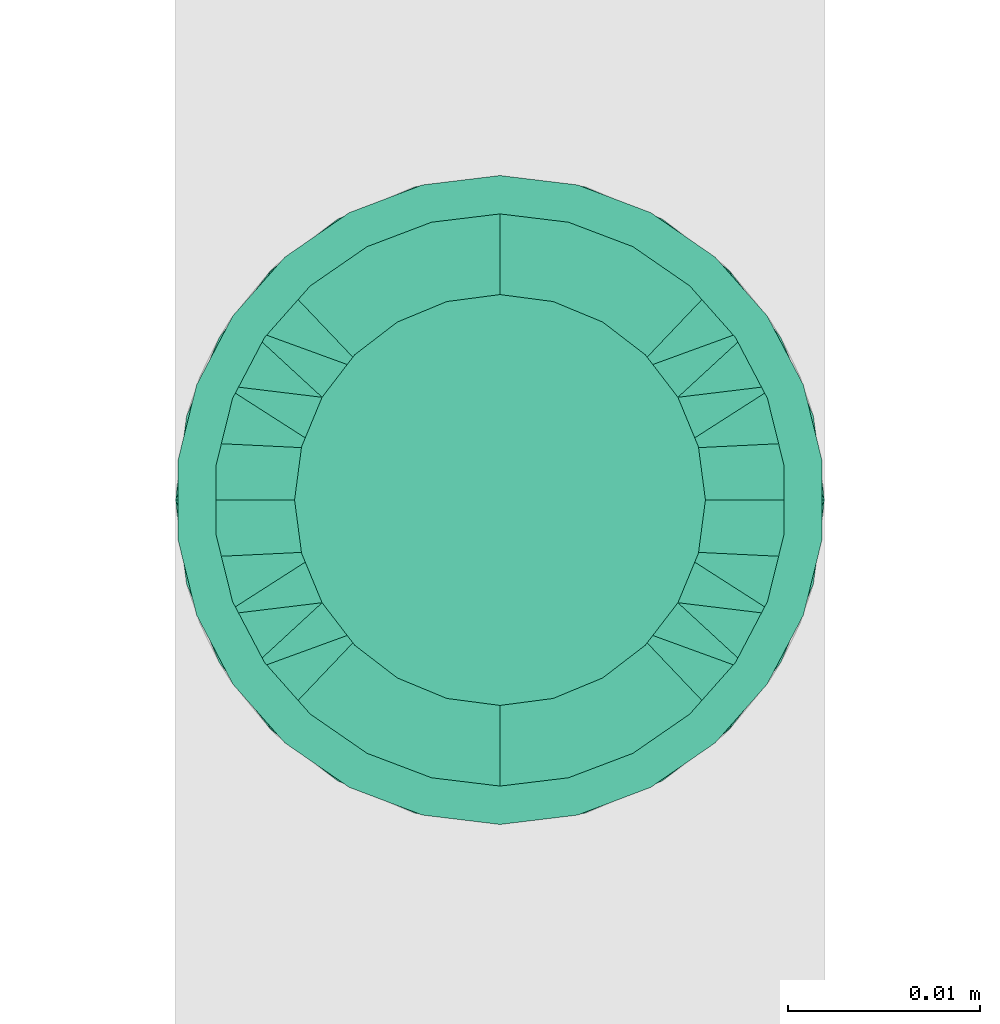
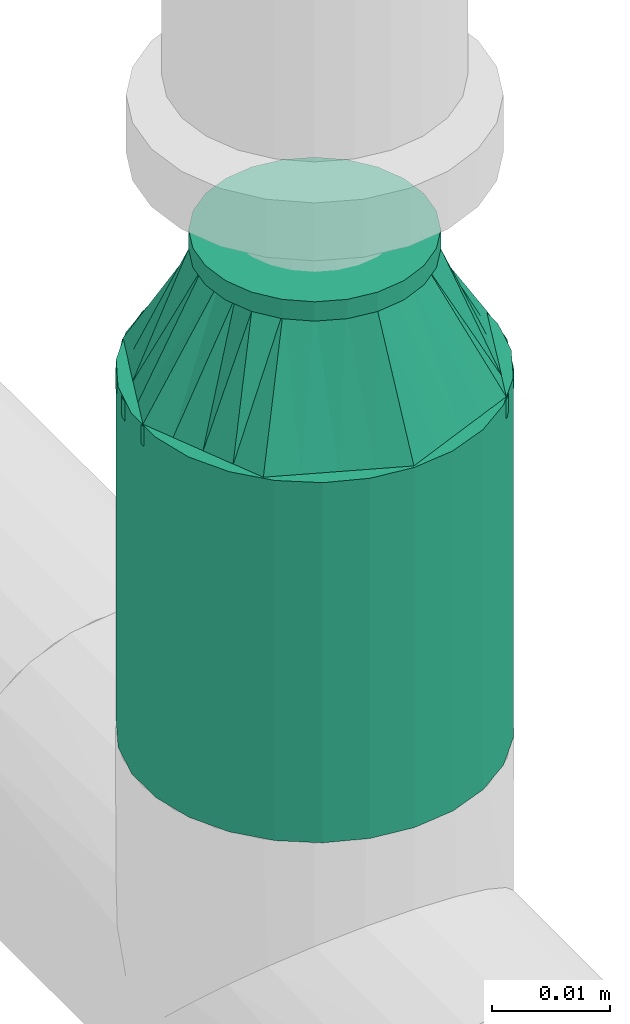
# One storey, part 26 of 31: 1 flow fitting, 1 flow segment.
"""IFC2X3 building model written with IfcOpenShell, lengths in millimetres."""

import ifcopenshell
import ifcopenshell.guid

model = None  # the IFC model being written
_history = None  # IfcOwnerHistory: only IFC2X3 demands one
_inside = {}  # id of a spatial element -> (the spatial element, [elements in it])
_under = {}  # id of a project, library or spatial element -> (it, [spatial elements below it])
_declared = {}  # id of a project -> (the project, [libraries it declares])
_typed = {}  # id of a type object -> (the type object, [elements of that type])
_made_of = {}  # id of a material, layer set ... -> (it, [elements and type objects made of it])


def new_model(schema):
    """Start an empty IFC model of exactly this schema.

    Asked for "IFC4X3", IfcOpenShell would pick the latest addendum, in which some entities
    have other attributes; the version numbers below select the first issue.
    IFC2X3 requires an IfcOwnerHistory on every rooted entity: one is made here for all.
    """
    global model, _history
    if schema == "IFC4X3":
        model = ifcopenshell.file(schema_version=(4, 3, 0, 0))
    else:
        model = ifcopenshell.file(schema=schema)
    _inside.clear()
    _under.clear()
    _declared.clear()
    _typed.clear()
    _made_of.clear()
    _history = None
    if model.schema == "IFC2X3":
        org = make("IfcOrganization", Name="unknown")
        user = make(
            "IfcPersonAndOrganization",
            ThePerson=make("IfcPerson", FamilyName="unknown"),
            TheOrganization=org,
        )
        app = make(
            "IfcApplication",
            ApplicationDeveloper=org,
            Version="unknown",
            ApplicationFullName="unknown",
            ApplicationIdentifier="unknown",
        )
        _history = make(
            "IfcOwnerHistory",
            OwningUser=user,
            OwningApplication=app,
            ChangeAction="ADDED",
            CreationDate=0,
        )
    return model


def make(cls, **values):
    """One entity of the class cls with the attributes given. An attribute that is None is left unset."""
    return model.create_entity(
        cls, **{name: value for name, value in values.items() if value is not None}
    )


def entity(cls, *values):
    """Any entity or typed value of the class cls, its attributes in the order of the schema. None: left unset."""
    e = model.create_entity(cls)
    for i, value in enumerate(values):
        if value is not None:
            e[i] = value
    return e


def rooted(cls, **values):
    """An entity with a GlobalId (a new one), such as an element, a storey or a relation."""
    return make(cls, GlobalId=ifcopenshell.guid.new(), OwnerHistory=_history, **values)


def si_unit(unit_type, name, prefix=None):
    """IfcSIUnit, for example si_unit("LENGTHUNIT", "METRE", prefix="MILLI")."""
    return make("IfcSIUnit", UnitType=unit_type, Prefix=prefix, Name=name)


def converted_unit(unit_type, name, factor, base, dimensions=None, offset=None):
    """IfcConversionBasedUnit, such as the inch: factor (a typed value) times the base unit."""
    return make(
        "IfcConversionBasedUnit"
        if offset is None
        else "IfcConversionBasedUnitWithOffset",
        ConversionOffset=offset,
        Dimensions=None
        if dimensions is None
        else entity("IfcDimensionalExponents", *dimensions),
        UnitType=unit_type,
        Name=name,
        ConversionFactor=make(
            "IfcMeasureWithUnit", ValueComponent=factor, UnitComponent=base
        ),
    )


def derived_unit(unit_type, elements):
    """IfcDerivedUnit: a product of units, each with its exponent."""
    return make(
        "IfcDerivedUnit",
        Elements=[
            make("IfcDerivedUnitElement", Unit=unit, Exponent=power)
            for unit, power in elements
        ],
        UnitType=unit_type,
    )


def assignment(units):
    """IfcUnitAssignment: the units of a project."""
    return None if units is None else make("IfcUnitAssignment", Units=units)


def point(xyz):
    """IfcCartesianPoint."""
    return None if xyz is None else make("IfcCartesianPoint", Coordinates=xyz)


def direction(xyz):
    """IfcDirection."""
    return None if xyz is None else make("IfcDirection", DirectionRatios=xyz)


def frame(location, z_axis=None, x_axis=None):
    """IfcAxis2Placement3D, a coordinate frame: its origin and axes. An axis left out is left unset."""
    return make(
        "IfcAxis2Placement3D",
        Location=point(location),
        Axis=direction(z_axis),
        RefDirection=direction(x_axis),
    )


def frame_2d(location, x_axis=None):
    """IfcAxis2Placement2D, a coordinate frame in the plane: its origin and x axis."""
    return make(
        "IfcAxis2Placement2D", Location=point(location), RefDirection=direction(x_axis)
    )


def origin_with_axes():
    """The frame at (0, 0, 0) with the z axis (0, 0, 1) and the x axis (1, 0, 0) written out."""
    return frame((0.0, 0.0, 0.0), z_axis=(0.0, 0.0, 1.0), x_axis=(1.0, 0.0, 0.0))


def origin_2d_with_axis():
    """The frame at (0, 0) in the plane with the x axis (1, 0) written out."""
    return frame_2d((0.0, 0.0), x_axis=(1.0, 0.0))


def place(relative_to, where):
    """IfcLocalPlacement: puts the frame where relative to a parent placement (None: the world)."""
    return make(
        "IfcLocalPlacement", PlacementRelTo=relative_to, RelativePlacement=where
    )


def context(
    kind, dimensions, precision=None, world=None, true_north=None, identifier=None
):
    """IfcGeometricRepresentationContext, for example the 3D "Model" context."""
    return make(
        "IfcGeometricRepresentationContext",
        ContextIdentifier=identifier,
        ContextType=kind,
        CoordinateSpaceDimension=dimensions,
        Precision=precision,
        WorldCoordinateSystem=world,
        TrueNorth=true_north,
    )


def subcontext(parent, identifier, kind, view, scale=None):
    """IfcGeometricRepresentationSubContext, for example "Body" below "Model"."""
    return make(
        "IfcGeometricRepresentationSubContext",
        ContextIdentifier=identifier,
        ContextType=kind,
        ParentContext=parent,
        TargetScale=scale,
        TargetView=view,
    )


def project(units=None, contexts=None):
    """IfcProject with its units and contexts."""
    return rooted(
        "IfcProject",
        Name="project",
        RepresentationContexts=contexts,
        UnitsInContext=assignment(units),
    )


def spatial(cls, under=None, at=None, **own):
    """A site, building, storey or space (cls), placed at a placement, below another one or the project."""
    s = rooted(cls, ObjectPlacement=at, **own)
    if under is not None:
        _under.setdefault(under.id(), (under, []))[1].append(s)
    return s


def profile(cls, at=None, kind="AREA", **sizes):
    """A parametric profile (cls). Its sizes go by their IFC names, for example OverallWidth=200.0."""
    return make(cls, ProfileType=kind, Position=at, **sizes)


def hollow_circle(**sizes):
    """IfcCircleHollowProfileDef."""
    return profile("IfcCircleHollowProfileDef", **sizes)


def extrude(swept, where, along, depth):
    """IfcExtrudedAreaSolid: the profile swept, set in the frame where, extruded along a direction by depth."""
    return make(
        "IfcExtrudedAreaSolid",
        SweptArea=swept,
        Position=where,
        ExtrudedDirection=direction(along),
        Depth=depth,
    )


def faces_of(points, faces, orient=None, outer=None):
    """IfcFace entities. A face is a list of loops; a loop is a list of indices into points, from 0.

    orient and outer hold one flag for each loop. By default every Orientation is true, the
    first loop of a face is its IfcFaceOuterBound and the others are IfcFaceBound.
    """
    made = []
    for i, loops in enumerate(faces):
        bounds = []
        for j, loop in enumerate(loops):
            is_outer = j == 0 if outer is None else outer[i][j]
            bounds.append(
                make(
                    "IfcFaceOuterBound" if is_outer else "IfcFaceBound",
                    Bound=make("IfcPolyLoop", Polygon=[points[k] for k in loop]),
                    Orientation=True if orient is None else orient[i][j],
                )
            )
        made.append(make("IfcFace", Bounds=bounds))
    return made


def open_shell(faces, orient=None, outer=None):
    """The faces of one IfcOpenShell. surface_model builds it on its shared points."""
    return ("IfcOpenShell", faces, orient, outer)


def surface_model(cls, points, shells):
    """IfcFaceBasedSurfaceModel or IfcShellBasedSurfaceModel (cls): surfaces that need not close."""
    shared = [point(p) for p in points]
    made = [make(c, CfsFaces=faces_of(shared, fs, o, b)) for c, fs, o, b in shells]
    if cls == "IfcFaceBasedSurfaceModel":
        return make(cls, FbsmFaces=made)
    return make(cls, SbsmBoundary=made)


def shape(context_of_items, identifier, shape_type, items):
    """IfcShapeRepresentation: the items that make up one representation, for example the "Body"."""
    return make(
        "IfcShapeRepresentation",
        ContextOfItems=context_of_items,
        RepresentationIdentifier=identifier,
        RepresentationType=shape_type,
        Items=items,
    )


def source(mapping_origin, context_of_items, identifier, shape_type, items):
    """IfcRepresentationMap: a shape defined once, which mapped items show again and again."""
    return make(
        "IfcRepresentationMap",
        MappingOrigin=mapping_origin,
        MappedRepresentation=shape(context_of_items, identifier, shape_type, items),
    )


def transform(
    local_origin,
    x_axis=None,
    y_axis=None,
    z_axis=None,
    scale=None,
    scale2=None,
    scale3=None,
    uniform=True,
):
    """IfcCartesianTransformationOperator3D, or its non-uniform kind. x_axis, y_axis, z_axis: its Axis1, 2, 3."""
    if uniform:
        return make(
            "IfcCartesianTransformationOperator3D",
            Axis1=direction(x_axis),
            Axis2=direction(y_axis),
            LocalOrigin=point(local_origin),
            Scale=scale,
            Axis3=direction(z_axis),
        )
    return make(
        "IfcCartesianTransformationOperator3DnonUniform",
        Axis1=direction(x_axis),
        Axis2=direction(y_axis),
        LocalOrigin=point(local_origin),
        Scale=scale,
        Axis3=direction(z_axis),
        Scale2=scale2,
        Scale3=scale3,
    )


def mapped(mapping_source, mapping_target):
    """IfcMappedItem: shows the shape of a source again, moved by a transform."""
    return make(
        "IfcMappedItem", MappingSource=mapping_source, MappingTarget=mapping_target
    )


def made_of(thing, what):
    """Note that an element or type object is made of a material, layer set ...; save() writes the relation."""
    if what is not None:
        _made_of.setdefault(what.id(), (what, []))[1].append(thing)
    return thing


def type_object(cls, material=None, **own):
    """A type object (cls), such as IfcWallType, which elements share."""
    return made_of(rooted(cls, **own), material)


def element(
    cls,
    number,
    at=None,
    inside=None,
    cuts=None,
    type_object=None,
    material=None,
    context=None,
    identifier="Body",
    shape_type=None,
    held_by="IfcProductDefinitionShape",
    body=None,
    shapes=None,
    **own,
):
    """One element of the class cls, such as IfcWall. Its Tag is "e" and its number.

    at: its placement. inside: the storey or other place that contains it. cuts: it is an
    opening in that element (IfcRelVoidsElement). A single representation is given by context,
    identifier, shape_type and body (its items); several are given by shapes. held_by: the class
    of the entity that holds the representations. save() writes the other relations.
    """
    e = rooted(cls, Tag="e%d" % number, ObjectPlacement=at, **own)
    if body is not None:
        shapes = [shape(context, identifier, shape_type, body)]
    if shapes is not None:
        e.Representation = make(held_by, Representations=shapes)
    if inside is not None:
        _inside.setdefault(inside.id(), (inside, []))[1].append(e)
    if cuts is not None:
        rooted(
            "IfcRelVoidsElement", RelatingBuildingElement=cuts, RelatedOpeningElement=e
        )
    if type_object is not None:
        _typed.setdefault(type_object.id(), (type_object, []))[1].append(e)
    return made_of(e, material)


def aggregate(whole, parts):
    """IfcRelAggregates: a whole, such as a stair, and the parts it consists of."""
    return rooted("IfcRelAggregates", RelatingObject=whole, RelatedObjects=parts)


def save(model, path):
    """Write the relations noted so far, then the file.

    IfcRelAggregates (storeys below a building ...), IfcRelContainedInSpatialStructure (elements
    in a storey), IfcRelDefinesByType, IfcRelAssociatesMaterial and IfcRelDeclares: one each for
    every whole, place, type object, material and project.
    """
    for whole, parts in _under.values():
        aggregate(whole, parts)
    for where, things in _inside.values():
        rooted(
            "IfcRelContainedInSpatialStructure",
            RelatedElements=things,
            RelatingStructure=where,
        )
    for kind, things in _typed.values():
        rooted("IfcRelDefinesByType", RelatedObjects=things, RelatingType=kind)
    for what, things in _made_of.values():
        rooted("IfcRelAssociatesMaterial", RelatedObjects=things, RelatingMaterial=what)
    for by, libraries in _declared.values():
        rooted("IfcRelDeclares", RelatingContext=by, RelatedDefinitions=libraries)
    model.write(path)


model = new_model("IFC2X3")

# Units and contexts
model_context = context("Model", 3, precision=0.01, world=frame((0.0, 4.29681676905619e-09, 0.0)), true_north=direction((4.01073788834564e-13, 1.0)))
plan_context = context("Plan", 3, precision=0.01, world=frame((0.0, 4.29681676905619e-09, 0.0)), true_north=direction((4.01073788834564e-13, 1.0)))
body_context = subcontext(model_context, "Body", "Model", "MODEL_VIEW")
ifc_project = project(units=[converted_unit("PLANEANGLEUNIT", "DEGREE", entity("IfcPositiveLengthMeasure", 0.0174532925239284), si_unit("PLANEANGLEUNIT", "RADIAN"), dimensions=[0, 0, 0, 0, 0, 0, 0]), si_unit("AREAUNIT", "SQUARE_METRE"), si_unit("LENGTHUNIT", "METRE", prefix="MILLI"), si_unit("MASSUNIT", "GRAM", prefix="KILO"), si_unit("POWERUNIT", "WATT"), si_unit("PRESSUREUNIT", "PASCAL", prefix="KILO"), si_unit("FORCEUNIT", "NEWTON", prefix="KILO"), si_unit("ELECTRICVOLTAGEUNIT", "VOLT"), si_unit("ELECTRICCURRENTUNIT", "AMPERE"), si_unit("THERMODYNAMICTEMPERATUREUNIT", "DEGREE_CELSIUS"), si_unit("TIMEUNIT", "SECOND"), si_unit("VOLUMEUNIT", "CUBIC_METRE"), derived_unit("LINEARVELOCITYUNIT", [(si_unit("LENGTHUNIT", "METRE"), 1), (si_unit("TIMEUNIT", "SECOND"), -1)]), derived_unit("VOLUMETRICFLOWRATEUNIT", [(si_unit("VOLUMEUNIT", "CUBIC_METRE"), 1), (si_unit("TIMEUNIT", "SECOND"), -1)]), derived_unit("THERMALTRANSMITTANCEUNIT", [(si_unit("POWERUNIT", "WATT"), 1), (si_unit("THERMODYNAMICTEMPERATUREUNIT", "KELVIN"), -1), (si_unit("AREAUNIT", "SQUARE_METRE"), -1)]), derived_unit("SOUNDPRESSUREUNIT", [(si_unit("PRESSUREUNIT", "PASCAL"), 1)])], contexts=[model_context, plan_context])

# Site, building, storey
site_placement = place(None, frame((0.0, -4.29681676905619e-09, 0.0), z_axis=(0.0, 0.0, 1.0), x_axis=(1.0, 0.0, 0.0)))
site = spatial("IfcSite", under=ifc_project, at=site_placement, CompositionType="ELEMENT")
building_placement = place(site_placement, frame((0.0, 4.29681676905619e-09, 0.0), z_axis=(0.0, 0.0, 1.0), x_axis=(1.0, 0.0, 0.0)))
building = spatial("IfcBuilding", under=site, at=building_placement, Name="mc-building", CompositionType="ELEMENT")
storey_placement = place(building_placement, frame((0.0, 0.0, 200300.0), z_axis=(0.0, 0.0, 1.0), x_axis=(1.0, 0.0, 0.0)))
storey = spatial("IfcBuildingStorey", under=building, at=storey_placement, Name="Nivå C", CompositionType="ELEMENT", Elevation=200300.0)

# Flow fitting
pipe_fitting_type = type_object("IfcPipeFittingType", Name="magi_pipe_fe_reducer_centric_short_NOR", PredefinedType="TRANSITION")
shared_shape_1 = source(origin_with_axes(), body_context, "Body", "SurfaceModel", [
    surface_model("IfcShellBasedSurfaceModel", [(14.4, 5.35, -9.26647), (14.4, 0.0, -10.7), (14.4, 2.76936, -10.33541), (14.4, 10.33541, -2.76936), (14.4, 7.56604, -7.56604), (14.4, -10.33541, -2.76936), (14.4, 9.26647, -5.35), (14.4, 0.0, 10.7), (14.4, -5.35, -9.26647), (14.4, -2.76936, -10.33541), (14.4, -7.56604, -7.56604), (14.4, -9.26647, -5.35), (14.4, 10.7, 0.0), (14.4, 10.33541, 2.76936), (14.4, 9.26647, 5.35), (14.4, 7.56604, 7.56604), (14.4, 2.76936, 10.33541), (14.4, 5.35, 9.26647), (14.4, -10.33541, 2.76936), (14.4, -7.56604, 7.56604), (14.4, -9.26647, 5.35), (14.4, -10.7, 0.0), (14.4, -2.76936, 10.33541), (14.4, -5.35, 9.26647), (12.4, 2.76936, 10.33541), (12.4, -10.33541, -2.76936), (12.4, 0.0, 10.7), (12.4, 5.35, 9.26647), (12.4, 7.56604, 7.56604), (12.4, 9.26647, 5.35), (12.4, 10.33541, 2.76936), (12.4, -10.33541, 2.76936), (12.4, -2.76936, 10.33541), (12.4, -7.56604, 7.56604), (12.4, -5.35, 9.26647), (12.4, -9.26647, 5.35), (12.4, -10.7, 0.0), (12.4, 10.33541, -2.76936), (12.4, 5.35, -9.26647), (12.4, 9.26647, -5.35), (12.4, 7.56604, -7.56604), (12.4, 2.76936, -10.33541), (12.4, -9.26647, -5.35), (12.4, -5.35, -9.26647), (12.4, -7.56604, -7.56604), (12.4, 0.0, -10.7), (12.4, -2.76936, -10.33541), (12.4, 10.7, 0.0), (-2.0, 11.9501, 11.9501), (-2.0, 0.0, 16.9), (-2.0, 4.37404, 16.32415), (-2.0, 8.45, 14.63583), (-2.0, 14.63583, 8.45), (-2.0, 16.32415, 4.37404), (-2.0, -16.32415, 4.37404), (-2.0, -8.45, 14.63583), (-2.0, -14.63583, 8.45), (-2.0, -11.9501, 11.9501), (-2.0, -4.37404, 16.32415), (-2.0, -16.32415, -4.37404), (-2.0, -16.9, 0.0), (-2.0, -8.45, -14.63583), (-2.0, 16.32415, -4.37404), (-2.0, 11.9501, -11.9501), (-2.0, 14.63583, -8.45), (-2.0, 8.45, -14.63583), (-2.0, 4.37404, -16.32415), (-2.0, 0.0, -16.9), (-2.0, -11.9501, -11.9501), (-2.0, -14.63583, -8.45), (-2.0, -4.37404, -16.32415), (-2.0, 16.9, 0.0), (0.0, 4.37404, -16.32415), (0.0, 8.45, -14.63583), (0.0, 11.9501, -11.9501), (0.0, 0.0, -16.9), (0.0, 16.32415, -4.37404), (0.0, 16.32415, 4.37404), (0.0, 14.63583, -8.45), (0.0, -8.45, -14.63583), (0.0, -4.37404, -16.32415), (0.0, -11.9501, -11.9501), (0.0, -16.32415, -4.37404), (0.0, -14.63583, -8.45), (0.0, -16.32415, 4.37404), (0.0, 16.9, 0.0), (0.0, 14.63583, 8.45), (0.0, 11.9501, 11.9501), (0.0, 4.37404, 16.32415), (0.0, 8.45, 14.63583), (0.0, 0.0, 16.9), (0.0, -14.63583, 8.45), (0.0, -16.9, 0.0), (0.0, -8.45, 14.63583), (0.0, -11.9501, 11.9501), (0.0, -4.37404, 16.32415), (12.4, 9.3625, -2.31662), (0.0, 14.42505, -5.97505), (0.0, 15.66253, -2.98753), (12.4, -6.6875, -6.94985), (0.0, -13.18758, -8.96258), (0.0, 2.98753, -15.66253), (12.4, 0.0, -9.26647), (12.4, 6.6875, -6.94985), (0.0, 8.96258, -13.18758), (12.4, -9.3625, -2.31662), (0.0, -15.66253, -2.98753), (0.0, -14.42505, -5.97505), (0.0, 5.97505, -14.42505), (0.0, -2.98753, -15.66253), (0.0, -8.96258, -13.18758), (0.0, 13.18758, -8.96258), (12.4, 8.025, -4.63324), (12.4, -2.675, -9.26647), (12.4, 2.675, -9.26647), (0.0, -5.97505, -14.42505), (12.4, -8.025, -4.63324), (12.4, -9.3625, 2.31662), (0.0, -14.42505, 5.97505), (0.0, -15.66253, 2.98753), (12.4, 6.6875, 6.94985), (0.0, 13.18758, 8.96258), (0.0, -2.98753, 15.66253), (12.4, 0.0, 9.26647), (12.4, -6.6875, 6.94985), (0.0, -8.96258, 13.18758), (12.4, 9.3625, 2.31662), (0.0, 15.66253, 2.98753), (0.0, 14.42505, 5.97505), (0.0, -5.97505, 14.42505), (0.0, 2.98753, 15.66253), (0.0, 8.96258, 13.18758), (0.0, -13.18758, 8.96258), (12.4, -8.025, 4.63324), (12.4, 2.675, 9.26647), (12.4, -2.675, 9.26647), (0.0, 5.97505, 14.42505), (12.4, 8.025, 4.63324)], [open_shell([[[0, 1, 2]], [[3, 0, 4]], [[5, 0, 3]], [[3, 4, 6]], [[7, 5, 3]], [[1, 8, 9]], [[1, 0, 8]], [[10, 5, 11]], [[5, 10, 8]], [[0, 5, 8]], [[3, 12, 13]], [[13, 14, 15]], [[13, 15, 16]], [[7, 3, 16]], [[16, 15, 17]], [[7, 18, 5]], [[18, 19, 20]], [[21, 5, 18]], [[19, 22, 23]], [[22, 19, 18]], [[7, 22, 18]], [[13, 16, 3]], [[24, 25, 26]], [[27, 25, 24]], [[28, 29, 30]], [[28, 25, 27]], [[31, 26, 25]], [[32, 33, 34]], [[33, 32, 31]], [[33, 31, 35]], [[32, 26, 31]], [[31, 25, 36]], [[30, 37, 28]], [[25, 28, 37]], [[38, 37, 39]], [[37, 38, 25]], [[38, 39, 40]], [[41, 25, 38]], [[42, 43, 44]], [[43, 42, 25]], [[43, 45, 46]], [[43, 25, 41]], [[41, 45, 43]], [[37, 30, 47]], [[25, 5, 36]], [[42, 11, 25]], [[8, 44, 43]], [[42, 44, 10]], [[9, 43, 46]], [[25, 11, 5]], [[5, 21, 36]], [[9, 8, 43]], [[10, 44, 8]], [[10, 11, 42]], [[1, 9, 46]], [[46, 45, 1]], [[41, 2, 45]], [[38, 0, 41]], [[6, 40, 39]], [[38, 40, 4]], [[3, 39, 37]], [[38, 4, 0]], [[0, 2, 41]], [[12, 3, 37]], [[6, 39, 3]], [[6, 4, 40]], [[47, 12, 37]], [[45, 2, 1]], [[30, 13, 47]], [[29, 14, 30]], [[17, 28, 27]], [[29, 28, 15]], [[16, 27, 24]], [[30, 14, 13]], [[13, 12, 47]], [[16, 17, 27]], [[15, 28, 17]], [[15, 14, 29]], [[7, 16, 24]], [[24, 26, 7]], [[32, 22, 26]], [[34, 23, 32]], [[20, 33, 35]], [[34, 33, 19]], [[18, 35, 31]], [[34, 19, 23]], [[23, 22, 32]], [[21, 18, 31]], [[20, 35, 18]], [[20, 19, 33]], [[36, 21, 31]], [[26, 22, 7]], [[48, 49, 50]], [[48, 50, 51]], [[48, 52, 53]], [[48, 53, 49]], [[49, 53, 54]], [[55, 56, 57]], [[55, 58, 49]], [[56, 55, 49]], [[49, 54, 56]], [[54, 59, 60]], [[54, 53, 61]], [[53, 62, 63]], [[63, 62, 64]], [[63, 65, 66]], [[61, 53, 63]], [[67, 63, 66]], [[59, 68, 69]], [[68, 59, 61]], [[61, 67, 70]], [[59, 54, 61]], [[63, 67, 61]], [[53, 71, 62]], [[72, 73, 74]], [[75, 72, 74]], [[74, 76, 77]], [[76, 74, 78]], [[74, 77, 79]], [[75, 79, 80]], [[75, 74, 79]], [[81, 82, 83]], [[82, 81, 79]], [[79, 84, 82]], [[77, 76, 85]], [[77, 86, 87]], [[77, 87, 88]], [[88, 84, 79]], [[88, 87, 89]], [[84, 88, 90]], [[90, 91, 84]], [[92, 82, 84]], [[91, 93, 94]], [[91, 90, 93]], [[93, 90, 95]], [[79, 77, 88]], [[59, 82, 60]], [[69, 83, 59]], [[79, 68, 61]], [[69, 68, 81]], [[80, 61, 70]], [[59, 83, 82]], [[82, 92, 60]], [[80, 79, 61]], [[81, 68, 79]], [[81, 83, 69]], [[75, 80, 70]], [[70, 67, 75]], [[66, 72, 67]], [[65, 73, 66]], [[78, 63, 64]], [[65, 63, 74]], [[76, 64, 62]], [[65, 74, 73]], [[73, 72, 66]], [[85, 76, 62]], [[78, 64, 76]], [[78, 74, 63]], [[71, 85, 62]], [[67, 72, 75]], [[53, 77, 71]], [[52, 86, 53]], [[89, 48, 51]], [[52, 48, 87]], [[88, 51, 50]], [[53, 86, 77]], [[77, 85, 71]], [[88, 89, 51]], [[87, 48, 89]], [[87, 86, 52]], [[90, 88, 50]], [[50, 49, 90]], [[58, 95, 49]], [[55, 93, 58]], [[91, 57, 56]], [[55, 57, 94]], [[84, 56, 54]], [[55, 94, 93]], [[93, 95, 58]], [[92, 84, 54]], [[91, 56, 84]], [[91, 94, 57]], [[60, 92, 54]], [[49, 95, 90]], [[27, 34, 47]], [[47, 34, 43]], [[43, 38, 47]], [[43, 34, 36]], [[90, 87, 94]], [[92, 94, 87]], [[87, 74, 92]], [[75, 92, 74]], [[81, 92, 75]], [[74, 87, 85]], [[96, 97, 98]], [[81, 99, 100]], [[101, 102, 75]], [[98, 85, 47]], [[74, 103, 104]], [[104, 103, 38]], [[105, 106, 107]], [[38, 108, 104]], [[102, 109, 75]], [[110, 99, 81]], [[47, 96, 98]], [[103, 111, 112]], [[109, 102, 113]], [[36, 92, 106]], [[102, 101, 114]], [[110, 115, 43]], [[96, 112, 97]], [[107, 116, 105]], [[36, 106, 105]], [[113, 115, 109]], [[43, 115, 113]], [[116, 107, 100]], [[108, 38, 114]], [[111, 103, 74]], [[111, 97, 112]], [[99, 110, 43]], [[116, 100, 99]], [[101, 108, 114]], [[117, 118, 119]], [[87, 120, 121]], [[122, 123, 90]], [[119, 92, 36]], [[94, 124, 125]], [[125, 124, 34]], [[126, 127, 128]], [[34, 129, 125]], [[123, 130, 90]], [[131, 120, 87]], [[36, 117, 119]], [[124, 132, 133]], [[130, 123, 134]], [[47, 85, 127]], [[123, 122, 135]], [[131, 136, 27]], [[117, 133, 118]], [[128, 137, 126]], [[47, 127, 126]], [[134, 136, 130]], [[27, 136, 134]], [[137, 128, 121]], [[129, 34, 135]], [[132, 124, 94]], [[132, 118, 133]], [[120, 131, 27]], [[137, 121, 120]], [[122, 129, 135]]])]),
])
flow_fitting_placement = place(storey_placement, frame((611500.0, 400928.19532, 2962.64799999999), z_axis=(-1.0, 0.0, 0.0), x_axis=(0.0, 0.0, 1.0)))
element("IfcFlowFitting", 1, at=flow_fitting_placement, inside=storey, type_object=pipe_fitting_type, Name="magi_pipe_fe_reducer_centric_short_NOR", context=body_context, shape_type="MappedRepresentation", body=[
    mapped(shared_shape_1, transform((0.0, 0.0, 0.0), scale=1.0)),
])

# Flow segment
pipe_segment_type = type_object("IfcPipeSegmentType", Name="Stålrør normaltykke", PredefinedType="RIGIDSEGMENT")
shared_shape_2 = source(origin_with_axes(), body_context, "Body", "SweptSolid", [
    extrude(hollow_circle(Radius=16.9, WallThickness=2.0, at=origin_2d_with_axis()), frame((0.0, 0.0, 0.0), z_axis=(1.0, 0.0, 0.0), x_axis=(0.0, 1.0, 0.0)), (0.0, 0.0, 1.0), 37.3),
])
flow_segment_placement = place(storey_placement, frame((611500.0, 400928.19532, 2925.35000000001), z_axis=(-1.0, 0.0, 0.0), x_axis=(0.0, 0.0, 1.0)))
element("IfcFlowSegment", 2, at=flow_segment_placement, inside=storey, type_object=pipe_segment_type, Name="Stålrør normaltykke", context=body_context, shape_type="MappedRepresentation", body=[
    mapped(shared_shape_2, transform((0.0, 0.0, 0.0), scale=1.0)),
])

save(model, "model.ifc")
